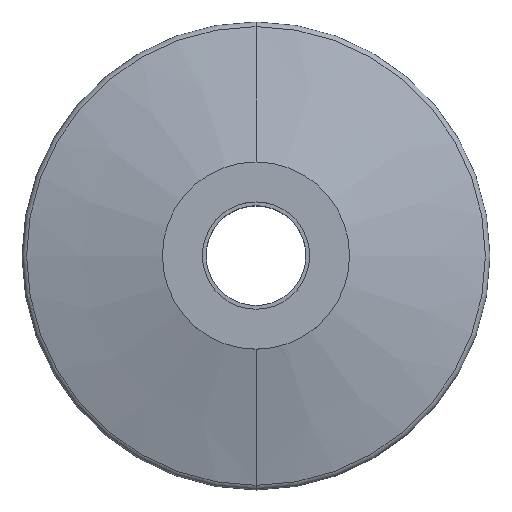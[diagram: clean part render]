
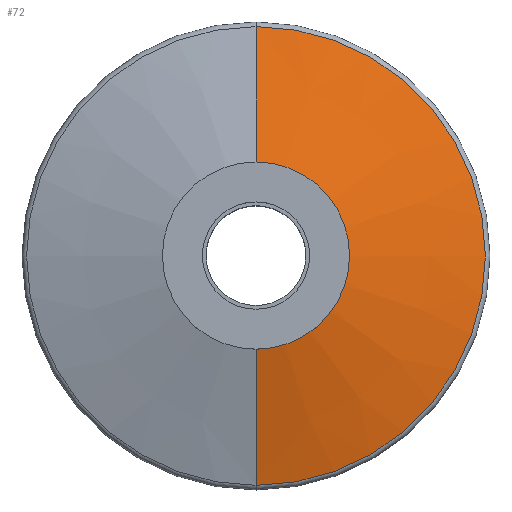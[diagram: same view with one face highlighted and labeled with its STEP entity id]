
A CAD part, top view. The second image highlights one B-rep face of the part: STEP entity #72.
In plain terms, the highlighted conical face has half-angle 75 degrees and reference radius 10 mm.
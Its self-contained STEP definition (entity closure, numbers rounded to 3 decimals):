
#30 = EDGE_CURVE ( 'NONE', #646, #39, #125, .T. ) ;
#34 = CONICAL_SURFACE ( 'NONE', #316, 10., 1.309 ) ;
#39 = VERTEX_POINT ( 'NONE', #339 ) ;
#72 = ADVANCED_FACE ( 'NONE', ( #287 ), #34, .T. ) ;
#81 = DIRECTION ( 'NONE',  ( 0., 0., 1. ) ) ;
#95 = ORIENTED_EDGE ( 'NONE', *, *, #30, .T. ) ;
#106 = EDGE_CURVE ( 'NONE', #39, #242, #120, .T. ) ;
#110 = VERTEX_POINT ( 'NONE', #333 ) ;
#120 = CIRCLE ( 'NONE', #616, 36.759 ) ;
#125 = LINE ( 'NONE', #217, #656 ) ;
#172 = DIRECTION ( 'NONE',  ( 0., 0., -1. ) ) ;
#174 = CARTESIAN_POINT ( 'NONE',  ( 0., 0., -29.631 ) ) ;
#203 = ORIENTED_EDGE ( 'NONE', *, *, #599, .F. ) ;
#217 = CARTESIAN_POINT ( 'NONE',  ( 0., -10., -29.631 ) ) ;
#237 = EDGE_CURVE ( 'NONE', #646, #110, #384, .T. ) ;
#242 = VERTEX_POINT ( 'NONE', #497 ) ;
#253 = LINE ( 'NONE', #486, #587 ) ;
#285 = DIRECTION ( 'NONE',  ( 0., -1., 0. ) ) ;
#287 = FACE_OUTER_BOUND ( 'NONE', #607, .T. ) ;
#316 = AXIS2_PLACEMENT_3D ( 'NONE', #174, #172, #644 ) ;
#333 = CARTESIAN_POINT ( 'NONE',  ( 0., 10., -29.631 ) ) ;
#336 = DIRECTION ( 'NONE',  ( 0., 0., 1. ) ) ;
#339 = CARTESIAN_POINT ( 'NONE',  ( 0., -36.759, -36.801 ) ) ;
#384 = CIRCLE ( 'NONE', #522, 10. ) ;
#445 = CARTESIAN_POINT ( 'NONE',  ( 0., 0., -36.801 ) ) ;
#480 = ORIENTED_EDGE ( 'NONE', *, *, #106, .T. ) ;
#486 = CARTESIAN_POINT ( 'NONE',  ( 0., 10., -29.631 ) ) ;
#497 = CARTESIAN_POINT ( 'NONE',  ( 0., 36.759, -36.801 ) ) ;
#503 = ORIENTED_EDGE ( 'NONE', *, *, #237, .F. ) ;
#522 = AXIS2_PLACEMENT_3D ( 'NONE', #606, #81, #651 ) ;
#585 = DIRECTION ( 'NONE',  ( 0., 0.966, -0.259 ) ) ;
#586 = DIRECTION ( 'NONE',  ( 0., -0.966, -0.259 ) ) ;
#587 = VECTOR ( 'NONE', #585, 1000. ) ;
#599 = EDGE_CURVE ( 'NONE', #110, #242, #253, .T. ) ;
#606 = CARTESIAN_POINT ( 'NONE',  ( 0., 0., -29.631 ) ) ;
#607 = EDGE_LOOP ( 'NONE', ( #503, #95, #480, #203 ) ) ;
#616 = AXIS2_PLACEMENT_3D ( 'NONE', #445, #336, #285 ) ;
#634 = CARTESIAN_POINT ( 'NONE',  ( 0., -10., -29.631 ) ) ;
#644 = DIRECTION ( 'NONE',  ( 0., 1., 0. ) ) ;
#646 = VERTEX_POINT ( 'NONE', #634 ) ;
#651 = DIRECTION ( 'NONE',  ( 0., -1., 0. ) ) ;
#656 = VECTOR ( 'NONE', #586, 1000. ) ;
